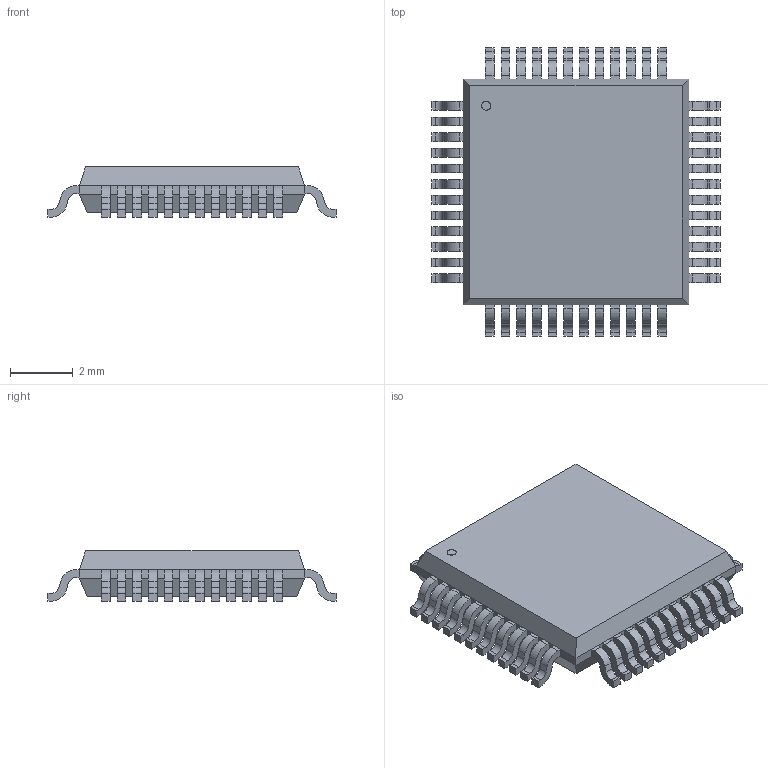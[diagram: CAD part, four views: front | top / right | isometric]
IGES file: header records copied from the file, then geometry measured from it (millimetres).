
Global section: file name: Filename.iges; native system: Open CASCADE 7.7; preprocessor: Open CASCADE IGES processor 7.7; author: SYSTEM; date: 20260216.050820; units: millimetre
Bounding box: 9.19 x 9.19 x 1.6 mm (x, y, z)
Surface area: 212.4 mm2 (no closed solid volume)
Topology: 0 solids, 0 shells, 689 faces, 3518 edges, 3516 vertices
Faces by surface type: plane 496, revolution 193
